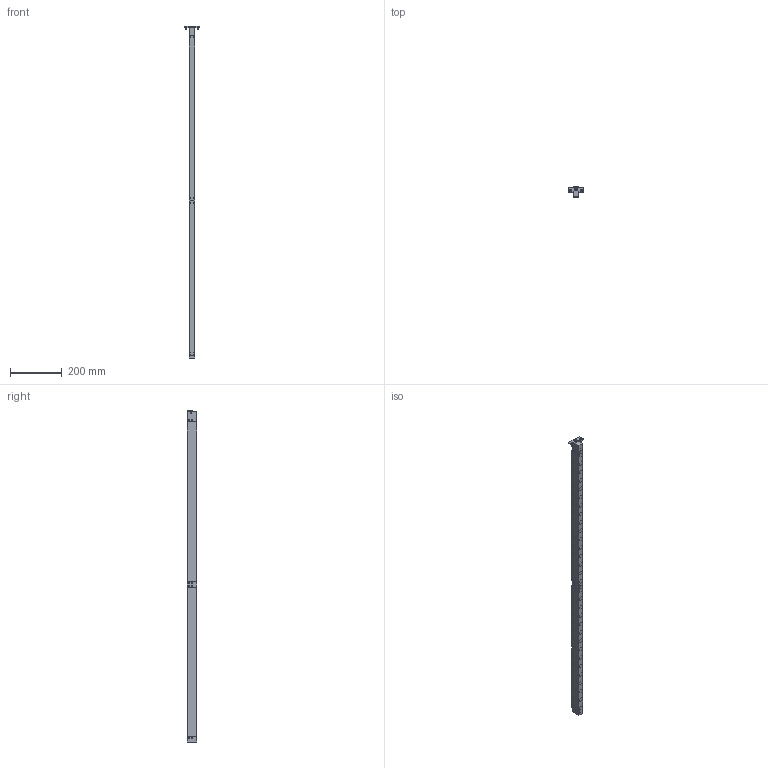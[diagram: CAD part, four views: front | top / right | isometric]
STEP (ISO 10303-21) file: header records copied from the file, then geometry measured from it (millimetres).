
FILE_DESCRIPTION(/* description */ (''),/* implementation_level */ '2;1');
FILE_NAME(/* name */ 'S:\EASCN Vault\Designs\Standard Part\DIE LIFTERS\EHB\EHB- 3D step\EHB22 - 3D step complete serie\EHB 22-31.stp',/* time_stamp */ '2019-11-21T15:07:58+08:00',/* author */ ('yue.yang'),/* organization */ (''),/* preprocessor_version */ 'ST-DEVELOPER v17',/* originating_system */ 'Autodesk Inventor 2019',/* authorisation */ '');
FILE_SCHEMA (('AUTOMOTIVE_DESIGN { 1 0 10303 214 3 1 1 }'));
Length unit declared in the file: millimetre
Products named in the file (1): EHB 22-31_Shrinkwrap_1
Bounding box: 58 x 37.8 x 1289 mm (x, y, z)
Volume: 825740.3 mm3; surface area: 331287.3 mm2
Topology: 112 solids, 112 shells, 1094 faces, 3006 edges, 2168 vertices
Faces by surface type: plane 394, cylinder 347, cone 167, torus 155, sphere 31
Full cylindrical faces by diameter (mm): 3 x3, 4.134 x1, 5 x27, 5.5 x5, 6 x33, 6.647 x2, 8 x2, 10 x8, 10.5 x1, 12.2 x31, 16 x31, 16.4 x31, 17.05 x31, 19.05 x31, 19.2 x31
Entity records: 40767 total; most frequent: CARTESIAN_POINT 10046, DIRECTION 6682, ORIENTED_EDGE 5814, AXIS2_PLACEMENT_3D 2937, EDGE_CURVE 2907, VERTEX_POINT 2168, CIRCLE 1840, EDGE_LOOP 1413
